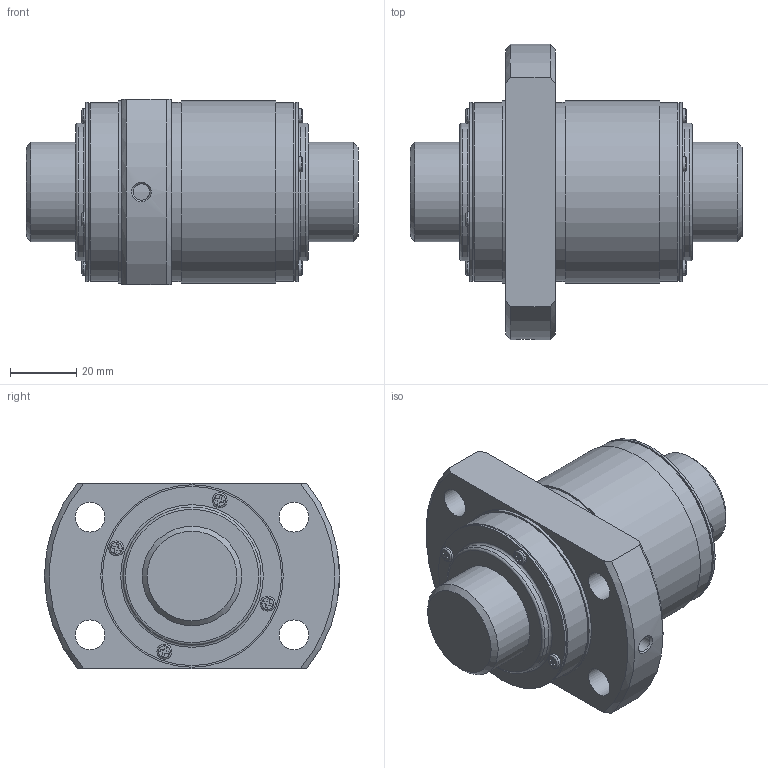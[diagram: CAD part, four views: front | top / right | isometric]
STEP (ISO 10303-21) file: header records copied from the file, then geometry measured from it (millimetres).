
FILE_DESCRIPTION(/* description */ ('STEP AP203'),/* implementation_level */ '2;1');
FILE_NAME(/* name */ 'WTF3060-2ZZ+100.1LC7T_000_rev',/* time_stamp */ '2025-06-11T06:40:49+02:00',/* author */ ('License CC BY-ND 4.0'),/* organization */ ('CADENAS'),/* preprocessor_version */ 'ST-DEVELOPER v19.3',/* originating_system */ 'PARTsolutions',/* authorisation */ ' ');
FILE_SCHEMA (('CONFIG_CONTROL_DESIGN'));
Length unit declared in the file: millimetre
Products named in the file (3): WTF3060-2ZZ+100.1LC7T_000_rev; WTF3060-20ZZ0 Shaft; WTF3060-2ZZ Nut
Assembly tree (2 placements, depth 2):
  WTF3060-2ZZ+100.1LC7T_000_rev
    WTF3060-20ZZ0 Shaft
    WTF3060-2ZZ Nut
Bounding box: 100.1 x 89 x 56 mm (x, y, z)
Volume: 208937.9 mm3; surface area: 40000.6 mm2
Topology: 2 solids, 2 shells, 206 faces, 515 edges, 338 vertices
Faces by surface type: plane 127, cylinder 58, torus 12, cone 9
Full cylindrical faces by diameter (mm): 4.54 x8, 4.917 x1, 9 x4, 30 x2, 41.6 x2, 54 x5, 55 x2
Entity records: 6035 total; most frequent: CARTESIAN_POINT 1063, DIRECTION 1016, ORIENTED_EDGE 946, EDGE_CURVE 473, AXIS2_PLACEMENT_3D 344, VERTEX_POINT 337, LINE 328, VECTOR 328
